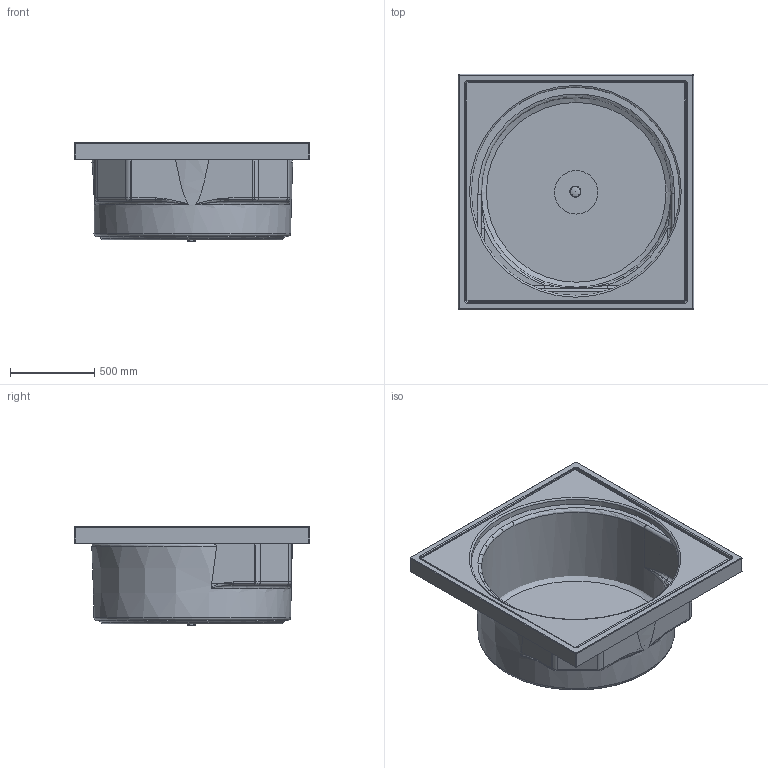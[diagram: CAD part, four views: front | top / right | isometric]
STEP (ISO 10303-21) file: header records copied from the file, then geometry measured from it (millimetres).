
FILE_DESCRIPTION((''),'2;1');
FILE_NAME('C:\Dokumente und Einstellungen\Andreas\Desktop\ARprivat\ÄnderungenNeuheiten 4\Änderung Blue Moon\3D_ÄNDERUNGEN_BLUE MOON\stp\700143mAE.stp','2009-02-19T16:05:20',('Andreas'),(''),'Autodesk Inventor 2009','Autodesk Inventor 2009','');
FILE_SCHEMA(('AUTOMOTIVE_DESIGN { 1 0 10303 214 1 1 1 1 }'));
Length unit declared in the file: millimetre
Products named in the file (5): 700143mAE; 700143; 790852; Kelch; Stopfen
Assembly tree (6 placements, depth 2):
  700143mAE
    700143
    790852
    Kelch  x2
    Stopfen  x2
Bounding box: 1400 x 1400 x 589.4 mm (x, y, z)
Volume: 88183119.3 mm3; surface area: 16473754.9 mm2
Topology: 7 solids, 7 shells, 253 faces, 599 edges, 360 vertices
Faces by surface type: plane 94, cylinder 94, bspline 27, torus 26, cone 8, sphere 4
Full cylindrical faces by diameter (mm): 42 x2, 44 x2, 52 x4, 60 x2, 258.158 x1, 1070 x1, 1130 x1, 1150 x1, 1240 x1, 1279.166 x1
Entity records: 9281 total; most frequent: CARTESIAN_POINT 4274, DIRECTION 1053, ORIENTED_EDGE 960, EDGE_CURVE 480, AXIS2_PLACEMENT_3D 411, VERTEX_POINT 303, EDGE_LOOP 267, VECTOR 231
